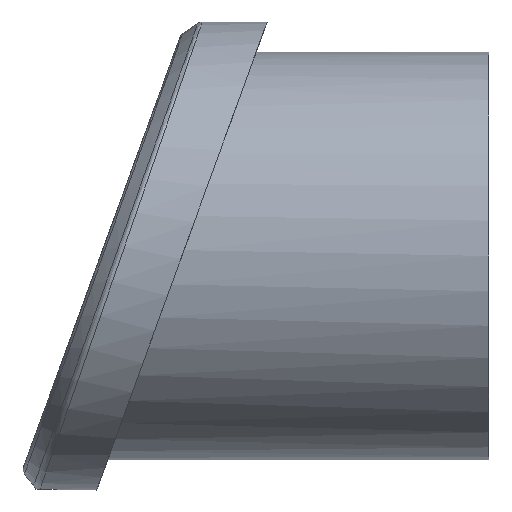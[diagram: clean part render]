
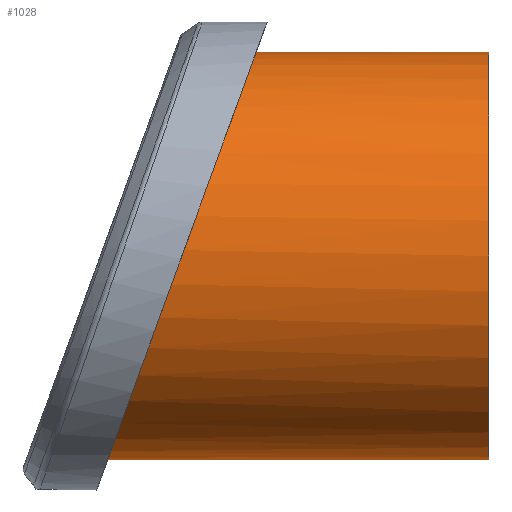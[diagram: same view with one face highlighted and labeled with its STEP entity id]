
A CAD part, left-side view. The second image highlights one B-rep face of the part: STEP entity #1028.
In plain terms, the highlighted cylindrical face has radius 26.25 mm (diameter 52.5 mm), a full revolution.
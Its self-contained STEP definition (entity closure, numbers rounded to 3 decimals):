
#33 = AXIS2_PLACEMENT_3D ( 'NONE', #1214, #1585, #2427 ) ;
#70 =( BOUNDED_CURVE ( )  B_SPLINE_CURVE ( 3, ( #949, #1393, #1991, #1380, #106, #2208, #2593 ),
 .UNSPECIFIED., .T., .T. ) 
 B_SPLINE_CURVE_WITH_KNOTS ( ( 4, 3, 4 ),
 ( 0., 3.142, 6.283 ),
 .UNSPECIFIED. ) 
 CURVE ( )  GEOMETRIC_REPRESENTATION_ITEM ( )  RATIONAL_B_SPLINE_CURVE ( ( 1., 0.333, 0.333, 1., 0.333, 0.333, 1. ) ) 
 REPRESENTATION_ITEM ( '' )  );
#77 = AXIS2_PLACEMENT_3D ( 'NONE', #503, #695, #1332 ) ;
#106 = CARTESIAN_POINT ( 'NONE',  ( 52.5, 739.472, 68.889 ) ) ;
#252 = CIRCLE ( 'NONE', #77, 26.25 ) ;
#328 = CYLINDRICAL_SURFACE ( 'NONE', #33, 26.25 ) ;
#419 = CARTESIAN_POINT ( 'NONE',  ( 0., 758.581, 16.389 ) ) ;
#503 = CARTESIAN_POINT ( 'NONE',  ( 0., 709.472, 42.639 ) ) ;
#695 = DIRECTION ( 'NONE',  ( 0., 1., 0. ) ) ;
#701 = EDGE_LOOP ( 'NONE', ( #1364 ) ) ;
#949 = CARTESIAN_POINT ( 'NONE',  ( 0., 758.581, 16.389 ) ) ;
#1028 = ADVANCED_FACE ( 'NONE', ( #2250, #2204 ), #328, .T. ) ;
#1214 = CARTESIAN_POINT ( 'NONE',  ( 0., 760., 42.639 ) ) ;
#1332 = DIRECTION ( 'NONE',  ( 0., 0., 1. ) ) ;
#1364 = ORIENTED_EDGE ( 'NONE', *, *, #1794, .F. ) ;
#1380 = CARTESIAN_POINT ( 'NONE',  ( 0., 739.472, 68.889 ) ) ;
#1393 = CARTESIAN_POINT ( 'NONE',  ( -52.5, 758.581, 16.389 ) ) ;
#1580 = CARTESIAN_POINT ( 'NONE',  ( 0., 709.472, 68.889 ) ) ;
#1585 = DIRECTION ( 'NONE',  ( 0., 1., 0. ) ) ;
#1794 = EDGE_CURVE ( 'NONE', #2654, #2654, #70, .T. ) ;
#1991 = CARTESIAN_POINT ( 'NONE',  ( -52.5, 739.472, 68.889 ) ) ;
#2204 = FACE_OUTER_BOUND ( 'NONE', #701, .T. ) ;
#2208 = CARTESIAN_POINT ( 'NONE',  ( 52.5, 758.581, 16.389 ) ) ;
#2226 = VERTEX_POINT ( 'NONE', #1580 ) ;
#2250 = FACE_OUTER_BOUND ( 'NONE', #2509, .T. ) ;
#2427 = DIRECTION ( 'NONE',  ( 0., 0., 1. ) ) ;
#2509 = EDGE_LOOP ( 'NONE', ( #2646 ) ) ;
#2593 = CARTESIAN_POINT ( 'NONE',  ( 0., 758.581, 16.389 ) ) ;
#2646 = ORIENTED_EDGE ( 'NONE', *, *, #2647, .T. ) ;
#2647 = EDGE_CURVE ( 'NONE', #2226, #2226, #252, .T. ) ;
#2654 = VERTEX_POINT ( 'NONE', #419 ) ;
